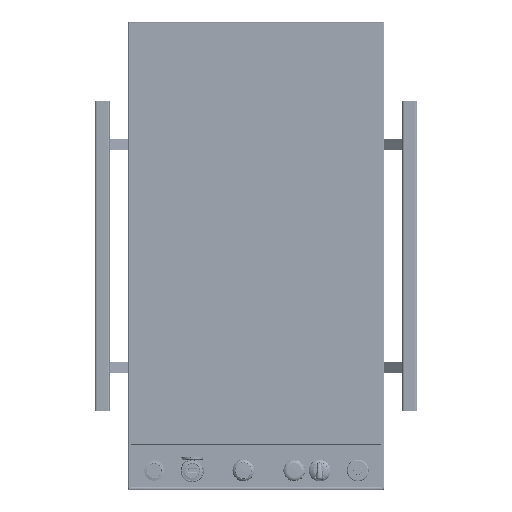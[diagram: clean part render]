
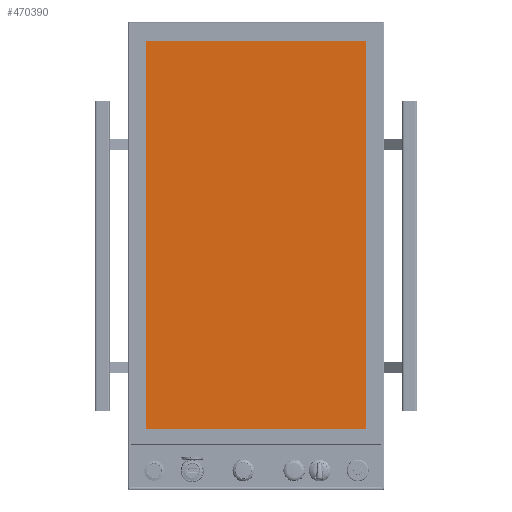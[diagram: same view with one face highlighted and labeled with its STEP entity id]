
A CAD part, top view. The second image highlights one B-rep face of the part: STEP entity #470390.
In plain terms, the highlighted planar face has unit normal (0, 0, 1) as drawn and (0, 1, 0) by its records, which use the part's own axes.
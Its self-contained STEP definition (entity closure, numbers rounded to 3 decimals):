
#29195 = LINE ( 'NONE', #212632, #186143 ) ;
#29374 = VECTOR ( 'NONE', #153401, 1000. ) ;
#32170 = LINE ( 'NONE', #339463, #29374 ) ;
#32537 = CARTESIAN_POINT ( 'NONE',  ( -266.88, 2.7, -150.645 ) ) ;
#47592 = EDGE_CURVE ( 'NONE', #440566, #435052, #262517, .T. ) ;
#67674 = ORIENTED_EDGE ( 'NONE', *, *, #181201, .T. ) ;
#87761 = VECTOR ( 'NONE', #176473, 1000. ) ;
#111411 = LINE ( 'NONE', #160756, #380242 ) ;
#113335 = EDGE_LOOP ( 'NONE', ( #159678, #346000, #67674, #442708 ) ) ;
#125939 = DIRECTION ( 'NONE',  ( 0., 0., -1. ) ) ;
#144373 = AXIS2_PLACEMENT_3D ( 'NONE', #478051, #438312, #286943 ) ;
#153401 = DIRECTION ( 'NONE',  ( -1., 0., 0. ) ) ;
#159678 = ORIENTED_EDGE ( 'NONE', *, *, #295459, .T. ) ;
#160756 = CARTESIAN_POINT ( 'NONE',  ( 266.88, 2.7, 150.645 ) ) ;
#176073 = VERTEX_POINT ( 'NONE', #287612 ) ;
#176473 = DIRECTION ( 'NONE',  ( 0., 0., 1. ) ) ;
#180335 = DIRECTION ( 'NONE',  ( 1., 0., 0. ) ) ;
#181201 = EDGE_CURVE ( 'NONE', #435052, #286449, #29195, .T. ) ;
#186143 = VECTOR ( 'NONE', #180335, 1000. ) ;
#212632 = CARTESIAN_POINT ( 'NONE',  ( -266.88, 2.7, 150.645 ) ) ;
#217394 = FACE_OUTER_BOUND ( 'NONE', #113335, .T. ) ;
#262517 = LINE ( 'NONE', #373960, #87761 ) ;
#284753 = EDGE_CURVE ( 'NONE', #286449, #176073, #111411, .T. ) ;
#286449 = VERTEX_POINT ( 'NONE', #487478 ) ;
#286943 = DIRECTION ( 'NONE',  ( 0., 0., 1. ) ) ;
#287612 = CARTESIAN_POINT ( 'NONE',  ( 266.88, 2.7, -150.645 ) ) ;
#295459 = EDGE_CURVE ( 'NONE', #176073, #440566, #32170, .T. ) ;
#339463 = CARTESIAN_POINT ( 'NONE',  ( 266.88, 2.7, -150.645 ) ) ;
#345148 = CARTESIAN_POINT ( 'NONE',  ( -266.88, 2.7, 150.645 ) ) ;
#346000 = ORIENTED_EDGE ( 'NONE', *, *, #47592, .T. ) ;
#373960 = CARTESIAN_POINT ( 'NONE',  ( -266.88, 2.7, -150.645 ) ) ;
#380242 = VECTOR ( 'NONE', #125939, 1000. ) ;
#435052 = VERTEX_POINT ( 'NONE', #345148 ) ;
#438312 = DIRECTION ( 'NONE',  ( 0., 1., 0. ) ) ;
#440566 = VERTEX_POINT ( 'NONE', #32537 ) ;
#442708 = ORIENTED_EDGE ( 'NONE', *, *, #284753, .T. ) ;
#470390 = ADVANCED_FACE ( 'NONE', ( #217394 ), #475623, .T. ) ;
#475623 = PLANE ( 'NONE',  #144373 ) ;
#478051 = CARTESIAN_POINT ( 'NONE',  ( 0., 2.7, 0. ) ) ;
#487478 = CARTESIAN_POINT ( 'NONE',  ( 266.88, 2.7, 150.645 ) ) ;
